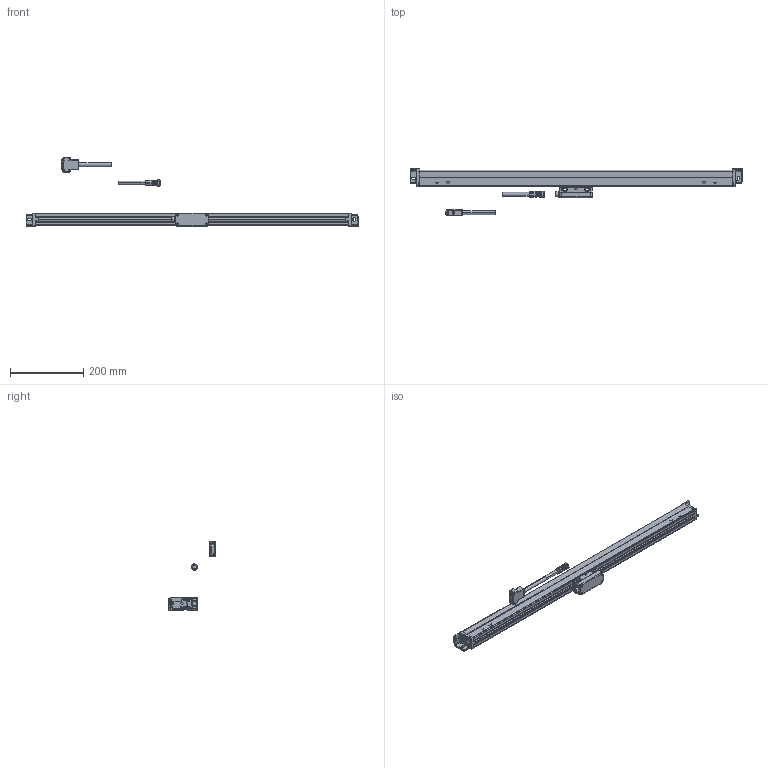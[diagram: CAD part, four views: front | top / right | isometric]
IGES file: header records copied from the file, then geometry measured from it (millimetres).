
Start section: Elysium IGES Interface
Global section: file name: 74H\\Utsu119s\kiyo_cad\data\3D\AT103\HP掲載用_201710\IGES\AT103_AT203-700.igs; native system: Creo Elements/Direct Modeling 18.1B  29-Sep-2012; preprocessor: Creo Element/Direct IGES_3D V2.2; author: Unknown; organization: Unknown; date: 20180105.141044; units: millimetre
Bounding box: 908 x 129 x 190.1 mm (x, y, z)
Volume: 1449367.4 mm3; surface area: 205737.4 mm2
Topology: 4 solids, 8 shells, 1072 faces, 2607 edges, 1597 vertices
Faces by surface type: bspline 1072
